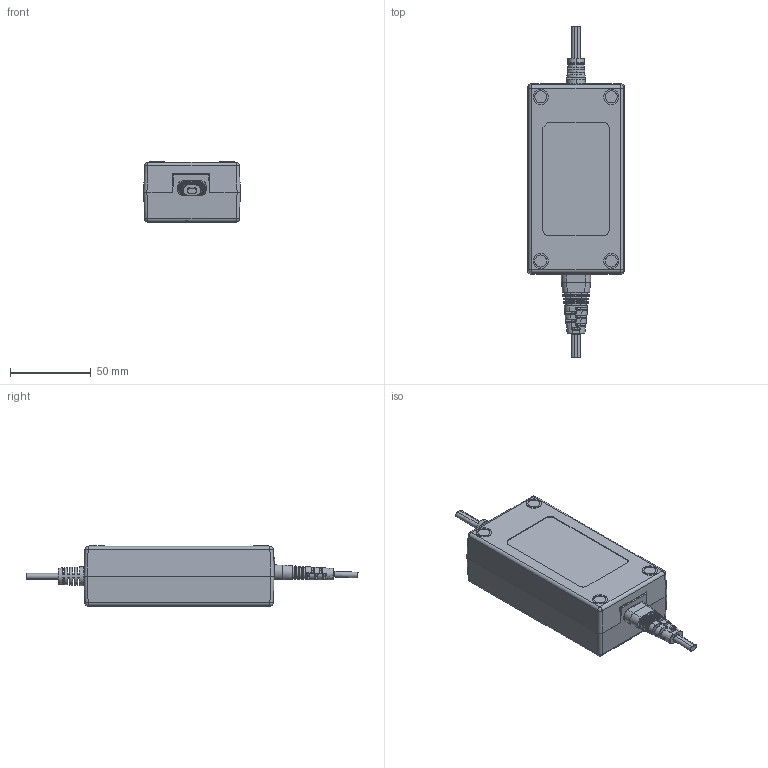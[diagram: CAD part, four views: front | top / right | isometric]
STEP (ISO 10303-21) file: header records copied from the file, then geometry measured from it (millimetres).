
FILE_DESCRIPTION (( 'STEP AP203' ), '1' );
FILE_NAME ('TP5.STEP', '2014-01-16T03:52:27', ( 'stanley' ), ( '' ), 'SwSTEP 2.0', 'SolidWorks 2010', '' );
FILE_SCHEMA (( 'CONFIG_CONTROL_DESIGN' ));
Length unit declared in the file: millimetre
Products named in the file (1): TP5
Bounding box: 60 x 206.11 x 37.3 mm (x, y, z)
Volume: 259979 mm3; surface area: 31020.8 mm2
Topology: 1 solids, 2 shells, 516 faces, 1336 edges, 849 vertices
Faces by surface type: cylinder 185, plane 171, bspline 104, torus 44, sphere 10, cone 2
Entity records: 35760 total; most frequent: CARTESIAN_POINT 24068, ORIENTED_EDGE 2660, DIRECTION 2085, EDGE_CURVE 1330, VERTEX_POINT 845, AXIS2_PLACEMENT_3D 776, EDGE_LOOP 543, VECTOR 533
